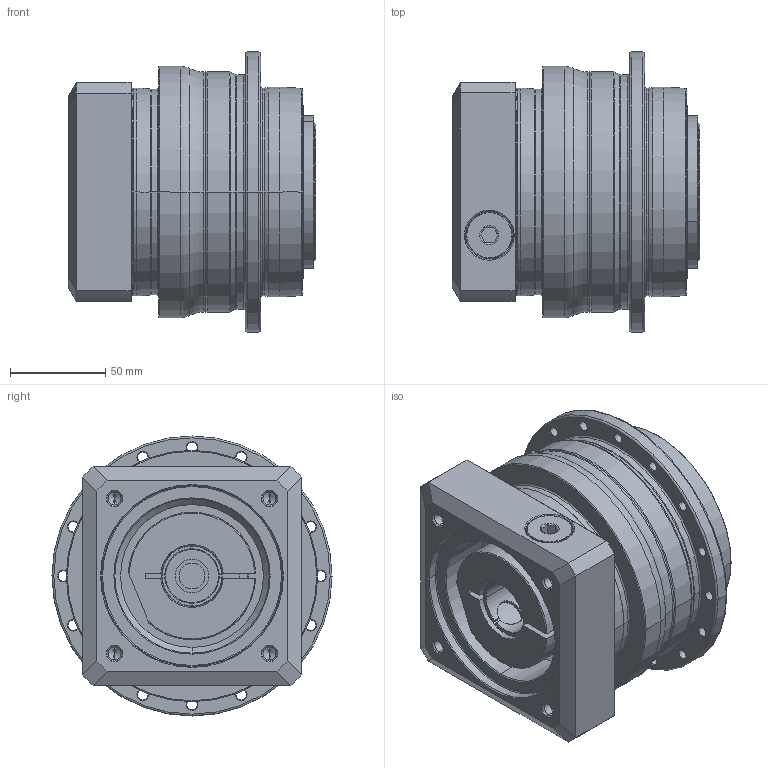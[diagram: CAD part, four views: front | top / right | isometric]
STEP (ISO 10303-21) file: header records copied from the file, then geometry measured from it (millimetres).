
FILE_DESCRIPTION((''),'2;1');
FILE_NAME('AH110_1ST_28-P0409600101_ASM','2016-08-03T',('d00435'),(''),'PRO/ENGINEER BY PARAMETRIC TECHNOLOGY CORPORATION, 2008410','PRO/ENGINEER BY PARAMETRIC TECHNOLOGY CORPORATION, 2008410','');
FILE_SCHEMA(('CONFIG_CONTROL_DESIGN'));
Length unit declared in the file: millimetre
Products named in the file (8): P0278400003; P0359400003; P1318400201; P0409600101; P0503600010; P0912402001; 21711418017; AH110_1ST_28-P0409600101_ASM
Assembly tree (7 placements, depth 2):
  AH110_1ST_28-P0409600101_ASM
    P0278400003
    P0359400003
    P1318400201
    P0409600101
    P0503600010
    P0912402001
    21711418017
Bounding box: 130 x 147 x 147 mm (x, y, z)
Volume: 1299624.2 mm3; surface area: 227481.1 mm2
Topology: 8 solids, 54 shells, 745 faces, 1741 edges, 1075 vertices
Faces by surface type: cylinder 326, cone 194, plane 145, torus 64, bspline 16
Entity records: 26058 total; most frequent: CARTESIAN_POINT 8483, DIRECTION 4069, ORIENTED_EDGE 3194, AXIS2_PLACEMENT_3D 1739, EDGE_CURVE 1687, VERTEX_POINT 1075, CIRCLE 985, EDGE_LOOP 906
